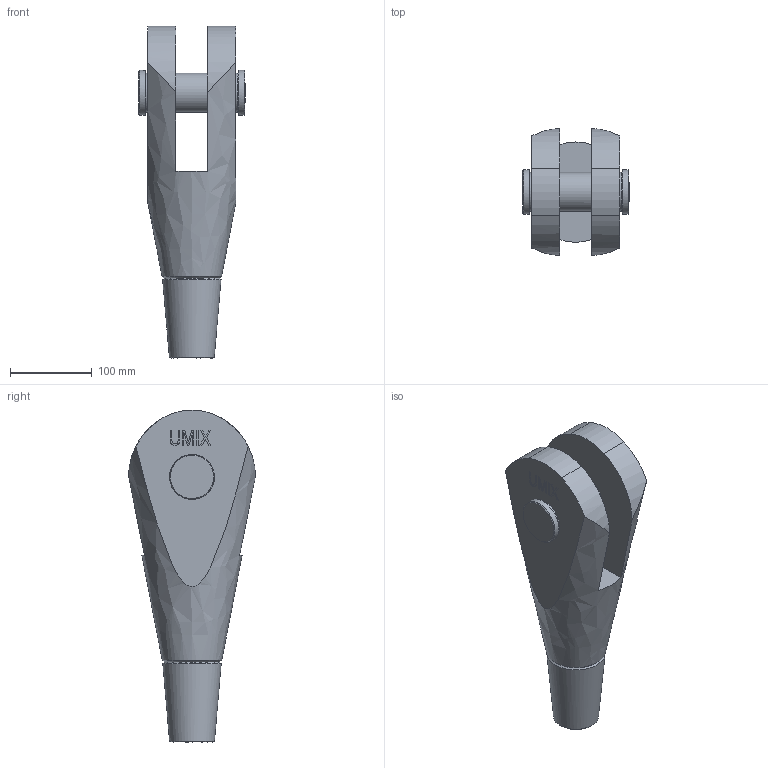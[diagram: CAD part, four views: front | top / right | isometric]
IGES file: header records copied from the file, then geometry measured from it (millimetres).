
Global section: file name: 520-048-GAK; native system: Autodesk Inventor 2016; preprocessor: unknown; author: Administrator; date: 20200625.075559; units: centimetre
Bounding box: 130.44 x 155.43 x 407 mm (x, y, z)
Volume: 2711052.5 mm3; surface area: 225285.1 mm2
Topology: 2 solids, 4 shells, 186 faces, 492 edges, 329 vertices
Faces by surface type: bspline 186
